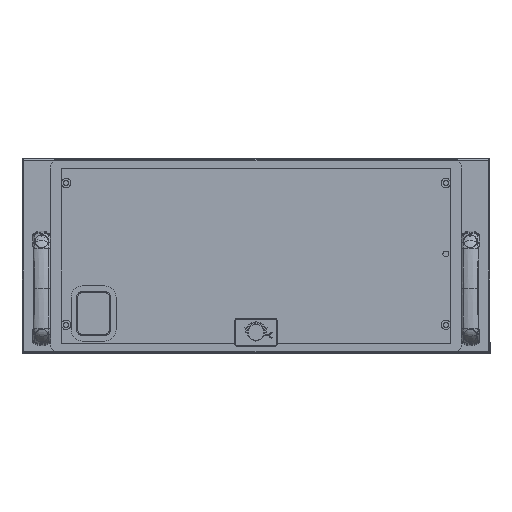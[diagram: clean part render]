
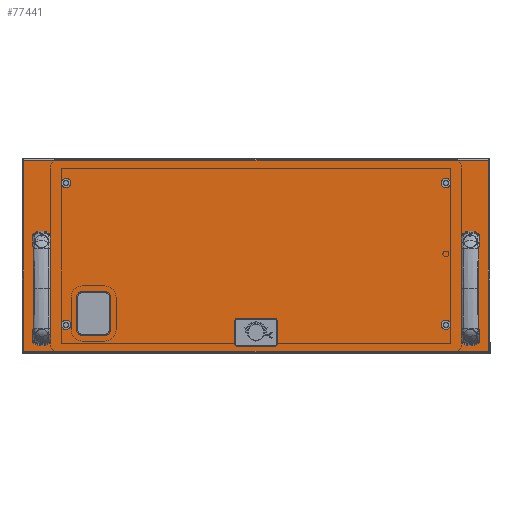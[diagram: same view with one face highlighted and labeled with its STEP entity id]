
A CAD part, front view. The second image highlights one B-rep face of the part: STEP entity #77441.
In plain terms, the highlighted planar face has unit normal (0, -1, 0) as drawn and (0, 0, 1) by its records, which use the part's own axes.
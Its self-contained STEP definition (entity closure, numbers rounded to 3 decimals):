
#74791=CARTESIAN_POINT(' ',(2.3,244.7,0.));
#74792=VERTEX_POINT(' ',#74791);
#74806=CARTESIAN_POINT(' ',(2.3,244.7,0.));
#74811=DIRECTION(' ',(1.,0.,0.));
#74816=VECTOR(' ',#74811,1.);
#74821=LINE('',#74806,#74816);
#74826=CARTESIAN_POINT(' ',(591.7,244.7,0.));
#74827=VERTEX_POINT(' ',#74826);
#74831=EDGE_CURVE(' ',#74792,#74827,#74821,.T.);
#76541=DIRECTION(' ',(-0.,-0.,1.));
#76546=CARTESIAN_POINT(' ',(591.7,2.3,0.));
#76551=DIRECTION(' ',(0.,1.,0.));
#76556=AXIS2_PLACEMENT_3D(' ',#76546,#76541,#76551);
#76561=PLANE('NONE',#76556);
#76566=CARTESIAN_POINT(' ',(591.7,244.7,0.));
#76571=DIRECTION(' ',(0.,-1.,0.));
#76576=VECTOR(' ',#76571,1.);
#76581=LINE('',#76566,#76576);
#76586=CARTESIAN_POINT(' ',(591.7,2.3,0.));
#76587=VERTEX_POINT(' ',#76586);
#76591=EDGE_CURVE(' ',#74827,#76587,#76581,.T.);
#76596=ORIENTED_EDGE(' ',*,*,#76591,.F.);
#76601=ORIENTED_EDGE(' ',*,*,#74831,.F.);
#76606=CARTESIAN_POINT(' ',(2.3,2.3,0.));
#76611=DIRECTION(' ',(0.,1.,0.));
#76616=VECTOR(' ',#76611,1.);
#76621=LINE('',#76606,#76616);
#76626=CARTESIAN_POINT(' ',(2.3,2.3,0.));
#76627=VERTEX_POINT(' ',#76626);
#76631=EDGE_CURVE(' ',#76627,#74792,#76621,.T.);
#76636=ORIENTED_EDGE(' ',*,*,#76631,.F.);
#76641=CARTESIAN_POINT(' ',(591.7,2.3,0.));
#76646=DIRECTION(' ',(-1.,0.,0.));
#76651=VECTOR(' ',#76646,1.);
#76656=LINE('',#76641,#76651);
#76661=EDGE_CURVE(' ',#76587,#76627,#76656,.T.);
#76666=ORIENTED_EDGE(' ',*,*,#76661,.F.);
#76671=EDGE_LOOP(' ',(#76596,#76601,#76636,#76666));
#76676=FACE_OUTER_BOUND(' ',#76671,.T.);
#76681=CARTESIAN_POINT(' ',(104.85,30.,0.));
#76686=DIRECTION(' ',(0.,-0.,1.));
#76691=DIRECTION(' ',(0.,-1.,0.));
#76696=AXIS2_PLACEMENT_3D(' ',#76681,#76686,#76691);
#76701=CIRCLE('',#76696,6.);
#76706=CARTESIAN_POINT(' ',(104.85,24.,0.));
#76707=VERTEX_POINT(' ',#76706);
#76711=CARTESIAN_POINT(' ',(110.85,30.,0.));
#76712=VERTEX_POINT(' ',#76711);
#76716=EDGE_CURVE(' ',#76707,#76712,#76701,.T.);
#76721=ORIENTED_EDGE(' ',*,*,#76716,.F.);
#76726=CARTESIAN_POINT(' ',(76.85,24.,0.));
#76731=DIRECTION(' ',(1.,0.,0.));
#76736=VECTOR(' ',#76731,1.);
#76741=LINE('',#76726,#76736);
#76746=CARTESIAN_POINT(' ',(76.85,24.,0.));
#76747=VERTEX_POINT(' ',#76746);
#76751=EDGE_CURVE(' ',#76747,#76707,#76741,.T.);
#76756=ORIENTED_EDGE(' ',*,*,#76751,.F.);
#76761=CARTESIAN_POINT(' ',(76.85,30.,0.));
#76766=DIRECTION(' ',(-0.,-0.,1.));
#76771=DIRECTION(' ',(-1.,0.,0.));
#76776=AXIS2_PLACEMENT_3D(' ',#76761,#76766,#76771);
#76781=CIRCLE('',#76776,6.);
#76786=CARTESIAN_POINT(' ',(70.85,30.,0.));
#76787=VERTEX_POINT(' ',#76786);
#76791=EDGE_CURVE(' ',#76787,#76747,#76781,.T.);
#76796=ORIENTED_EDGE(' ',*,*,#76791,.F.);
#76801=CARTESIAN_POINT(' ',(70.85,71.,0.));
#76806=DIRECTION(' ',(0.,-1.,0.));
#76811=VECTOR(' ',#76806,1.);
#76816=LINE('',#76801,#76811);
#76821=CARTESIAN_POINT(' ',(70.85,71.,0.));
#76822=VERTEX_POINT(' ',#76821);
#76826=EDGE_CURVE(' ',#76822,#76787,#76816,.T.);
#76831=ORIENTED_EDGE(' ',*,*,#76826,.F.);
#76836=CARTESIAN_POINT(' ',(76.85,71.,0.));
#76841=DIRECTION(' ',(0.,0.,1.));
#76846=DIRECTION(' ',(0.,1.,0.));
#76851=AXIS2_PLACEMENT_3D(' ',#76836,#76841,#76846);
#76856=CIRCLE('',#76851,6.);
#76861=CARTESIAN_POINT(' ',(76.85,77.,0.));
#76862=VERTEX_POINT(' ',#76861);
#76866=EDGE_CURVE(' ',#76862,#76822,#76856,.T.);
#76871=ORIENTED_EDGE(' ',*,*,#76866,.F.);
#76876=CARTESIAN_POINT(' ',(104.85,77.,0.));
#76881=DIRECTION(' ',(-1.,0.,0.));
#76886=VECTOR(' ',#76881,1.);
#76891=LINE('',#76876,#76886);
#76896=CARTESIAN_POINT(' ',(104.85,77.,0.));
#76897=VERTEX_POINT(' ',#76896);
#76901=EDGE_CURVE(' ',#76897,#76862,#76891,.T.);
#76906=ORIENTED_EDGE(' ',*,*,#76901,.F.);
#76911=CARTESIAN_POINT(' ',(104.85,71.,0.));
#76916=DIRECTION(' ',(0.,0.,1.));
#76921=DIRECTION(' ',(1.,0.,0.));
#76926=AXIS2_PLACEMENT_3D(' ',#76911,#76916,#76921);
#76931=CIRCLE('',#76926,6.);
#76936=CARTESIAN_POINT(' ',(110.85,71.,0.));
#76937=VERTEX_POINT(' ',#76936);
#76941=EDGE_CURVE(' ',#76937,#76897,#76931,.T.);
#76946=ORIENTED_EDGE(' ',*,*,#76941,.F.);
#76951=CARTESIAN_POINT(' ',(110.85,30.,0.));
#76956=DIRECTION(' ',(0.,1.,0.));
#76961=VECTOR(' ',#76956,1.);
#76966=LINE('',#76951,#76961);
#76971=EDGE_CURVE(' ',#76712,#76937,#76966,.T.);
#76976=ORIENTED_EDGE(' ',*,*,#76971,.F.);
#76981=EDGE_LOOP(' ',(#76721,#76756,#76796,#76831,#76871,#76906,#76946,#76976));
#76986=FACE_BOUND(' ',#76981,.T.);
#76991=CARTESIAN_POINT(' ',(297.,26.5,0.));
#76996=DIRECTION(' ',(0.,-0.,1.));
#77001=DIRECTION(' ',(-1.,0.,0.));
#77006=AXIS2_PLACEMENT_3D(' ',#76991,#76996,#77001);
#77011=CIRCLE('',#77006,10.);
#77016=CARTESIAN_POINT(' ',(287.,26.5,0.));
#77017=VERTEX_POINT(' ',#77016);
#77021=CARTESIAN_POINT(' ',(307.,26.5,0.));
#77022=VERTEX_POINT(' ',#77021);
#77026=EDGE_CURVE(' ',#77017,#77022,#77011,.T.);
#77031=ORIENTED_EDGE(' ',*,*,#77026,.F.);
#77036=CARTESIAN_POINT(' ',(297.,26.5,0.));
#77041=DIRECTION(' ',(0.,0.,1.));
#77046=DIRECTION(' ',(1.,0.,0.));
#77051=AXIS2_PLACEMENT_3D(' ',#77036,#77041,#77046);
#77056=CIRCLE('',#77051,10.);
#77061=EDGE_CURVE(' ',#77022,#77017,#77056,.T.);
#77066=ORIENTED_EDGE(' ',*,*,#77061,.F.);
#77071=EDGE_LOOP(' ',(#77031,#77066));
#77076=FACE_BOUND(' ',#77071,.T.);
#77081=CARTESIAN_POINT(' ',(569.,23.5,0.));
#77086=DIRECTION(' ',(0.,0.,1.));
#77091=DIRECTION(' ',(0.,1.,0.));
#77096=AXIS2_PLACEMENT_3D(' ',#77081,#77086,#77091);
#77101=CIRCLE('',#77096,3.75);
#77106=CARTESIAN_POINT(' ',(569.,27.25,0.));
#77107=VERTEX_POINT(' ',#77106);
#77111=CARTESIAN_POINT(' ',(569.,19.75,0.));
#77112=VERTEX_POINT(' ',#77111);
#77116=EDGE_CURVE(' ',#77107,#77112,#77101,.T.);
#77121=ORIENTED_EDGE(' ',*,*,#77116,.F.);
#77126=CARTESIAN_POINT(' ',(569.,23.5,0.));
#77131=DIRECTION(' ',(0.,0.,1.));
#77136=DIRECTION(' ',(0.,-1.,0.));
#77141=AXIS2_PLACEMENT_3D(' ',#77126,#77131,#77136);
#77146=CIRCLE('',#77141,3.75);
#77151=EDGE_CURVE(' ',#77112,#77107,#77146,.T.);
#77156=ORIENTED_EDGE(' ',*,*,#77151,.F.);
#77161=EDGE_LOOP(' ',(#77121,#77156));
#77166=FACE_BOUND(' ',#77161,.T.);
#77171=CARTESIAN_POINT(' ',(25.,143.5,0.));
#77176=DIRECTION(' ',(0.,0.,1.));
#77181=DIRECTION(' ',(0.,1.,0.));
#77186=AXIS2_PLACEMENT_3D(' ',#77171,#77176,#77181);
#77191=CIRCLE('',#77186,3.75);
#77196=CARTESIAN_POINT(' ',(25.,147.25,0.));
#77197=VERTEX_POINT(' ',#77196);
#77201=CARTESIAN_POINT(' ',(25.,139.75,0.));
#77202=VERTEX_POINT(' ',#77201);
#77206=EDGE_CURVE(' ',#77197,#77202,#77191,.T.);
#77211=ORIENTED_EDGE(' ',*,*,#77206,.F.);
#77216=CARTESIAN_POINT(' ',(25.,143.5,0.));
#77221=DIRECTION(' ',(0.,0.,1.));
#77226=DIRECTION(' ',(0.,-1.,0.));
#77231=AXIS2_PLACEMENT_3D(' ',#77216,#77221,#77226);
#77236=CIRCLE('',#77231,3.75);
#77241=EDGE_CURVE(' ',#77202,#77197,#77236,.T.);
#77246=ORIENTED_EDGE(' ',*,*,#77241,.F.);
#77251=EDGE_LOOP(' ',(#77211,#77246));
#77256=FACE_BOUND(' ',#77251,.T.);
#77261=CARTESIAN_POINT(' ',(25.,23.5,0.));
#77266=DIRECTION(' ',(0.,0.,1.));
#77271=DIRECTION(' ',(0.,1.,0.));
#77276=AXIS2_PLACEMENT_3D(' ',#77261,#77266,#77271);
#77281=CIRCLE('',#77276,3.75);
#77286=CARTESIAN_POINT(' ',(25.,27.25,0.));
#77287=VERTEX_POINT(' ',#77286);
#77291=CARTESIAN_POINT(' ',(25.,19.75,0.));
#77292=VERTEX_POINT(' ',#77291);
#77296=EDGE_CURVE(' ',#77287,#77292,#77281,.T.);
#77301=ORIENTED_EDGE(' ',*,*,#77296,.F.);
#77306=CARTESIAN_POINT(' ',(25.,23.5,0.));
#77311=DIRECTION(' ',(0.,0.,1.));
#77316=DIRECTION(' ',(0.,-1.,0.));
#77321=AXIS2_PLACEMENT_3D(' ',#77306,#77311,#77316);
#77326=CIRCLE('',#77321,3.75);
#77331=EDGE_CURVE(' ',#77292,#77287,#77326,.T.);
#77336=ORIENTED_EDGE(' ',*,*,#77331,.F.);
#77341=EDGE_LOOP(' ',(#77301,#77336));
#77346=FACE_BOUND(' ',#77341,.T.);
#77351=CARTESIAN_POINT(' ',(569.,143.5,0.));
#77356=DIRECTION(' ',(0.,0.,1.));
#77361=DIRECTION(' ',(0.,1.,0.));
#77366=AXIS2_PLACEMENT_3D(' ',#77351,#77356,#77361);
#77371=CIRCLE('',#77366,3.75);
#77376=CARTESIAN_POINT(' ',(569.,147.25,0.));
#77377=VERTEX_POINT(' ',#77376);
#77381=CARTESIAN_POINT(' ',(569.,139.75,0.));
#77382=VERTEX_POINT(' ',#77381);
#77386=EDGE_CURVE(' ',#77377,#77382,#77371,.T.);
#77391=ORIENTED_EDGE(' ',*,*,#77386,.F.);
#77396=CARTESIAN_POINT(' ',(569.,143.5,0.));
#77401=DIRECTION(' ',(0.,0.,1.));
#77406=DIRECTION(' ',(0.,-1.,0.));
#77411=AXIS2_PLACEMENT_3D(' ',#77396,#77401,#77406);
#77416=CIRCLE('',#77411,3.75);
#77421=EDGE_CURVE(' ',#77382,#77377,#77416,.T.);
#77426=ORIENTED_EDGE(' ',*,*,#77421,.F.);
#77431=EDGE_LOOP(' ',(#77391,#77426));
#77436=FACE_BOUND(' ',#77431,.T.);
#77441=ADVANCED_FACE('NONE',(#76676,#76986,#77076,#77166,#77256,#77346,#77436),#76561,.T.);
